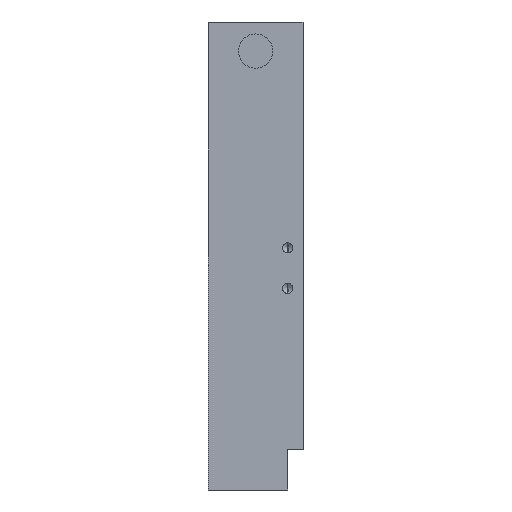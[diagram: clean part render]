
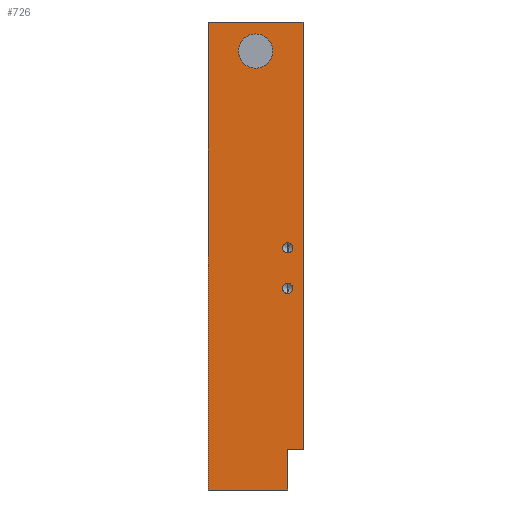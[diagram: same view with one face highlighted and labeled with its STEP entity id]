
A CAD part, left-side view. The second image highlights one B-rep face of the part: STEP entity #726.
In plain terms, the highlighted planar face has unit normal (-1, 0, 0).
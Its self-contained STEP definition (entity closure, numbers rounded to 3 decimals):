
#22 = DIRECTION ( 'NONE',  ( -1., 0., 0. ) ) ;
#74 = DIRECTION ( 'NONE',  ( 0., 0., 1. ) ) ;
#81 = FACE_BOUND ( 'NONE', #3124, .T. ) ;
#102 = CARTESIAN_POINT ( 'NONE',  ( -111.5, 0., 58. ) ) ;
#175 = PLANE ( 'NONE',  #2113 ) ;
#195 = CARTESIAN_POINT ( 'NONE',  ( -111.5, 23.7, 58. ) ) ;
#211 = VERTEX_POINT ( 'NONE', #2895 ) ;
#272 = DIRECTION ( 'NONE',  ( 0., 0., 1. ) ) ;
#274 = EDGE_CURVE ( 'NONE', #211, #973, #2986, .T. ) ;
#325 = CARTESIAN_POINT ( 'NONE',  ( -111.5, 4., 3.25 ) ) ;
#341 = FACE_BOUND ( 'NONE', #3145, .T. ) ;
#361 = AXIS2_PLACEMENT_3D ( 'NONE', #1323, #811, #3089 ) ;
#381 = VERTEX_POINT ( 'NONE', #539 ) ;
#385 = ORIENTED_EDGE ( 'NONE', *, *, #1773, .F. ) ;
#391 = CARTESIAN_POINT ( 'NONE',  ( -111.5, 4., -9.25 ) ) ;
#395 = ORIENTED_EDGE ( 'NONE', *, *, #599, .T. ) ;
#419 = CARTESIAN_POINT ( 'NONE',  ( -111.5, 4., 2. ) ) ;
#421 = ORIENTED_EDGE ( 'NONE', *, *, #1655, .F. ) ;
#536 = ORIENTED_EDGE ( 'NONE', *, *, #2447, .T. ) ;
#539 = CARTESIAN_POINT ( 'NONE',  ( -111.5, 0.2, 58. ) ) ;
#548 = EDGE_CURVE ( 'NONE', #3078, #2747, #605, .T. ) ;
#554 = EDGE_CURVE ( 'NONE', #381, #2758, #2401, .T. ) ;
#573 = CARTESIAN_POINT ( 'NONE',  ( -111.5, 23.7, -58. ) ) ;
#599 = EDGE_CURVE ( 'NONE', #3161, #1112, #1427, .T. ) ;
#605 = CIRCLE ( 'NONE', #361, 4.25 ) ;
#641 = CIRCLE ( 'NONE', #1528, 1.25 ) ;
#658 = CARTESIAN_POINT ( 'NONE',  ( -111.5, 11.95, 46.55 ) ) ;
#673 = ORIENTED_EDGE ( 'NONE', *, *, #2876, .F. ) ;
#713 = DIRECTION ( 'NONE',  ( -1., 0., 0. ) ) ;
#726 = ADVANCED_FACE ( 'NONE', ( #2085, #341, #81, #1686 ), #175, .F. ) ;
#811 = DIRECTION ( 'NONE',  ( -1., 0., 0. ) ) ;
#848 = CARTESIAN_POINT ( 'NONE',  ( -111.5, 23.7, 58. ) ) ;
#854 = ORIENTED_EDGE ( 'NONE', *, *, #274, .F. ) ;
#855 = CARTESIAN_POINT ( 'NONE',  ( -111.5, 4., -8. ) ) ;
#858 = VERTEX_POINT ( 'NONE', #2702 ) ;
#961 = CIRCLE ( 'NONE', #2015, 1.25 ) ;
#973 = VERTEX_POINT ( 'NONE', #325 ) ;
#982 = CARTESIAN_POINT ( 'NONE',  ( -111.5, 4., -6.75 ) ) ;
#997 = VECTOR ( 'NONE', #1483, 1000. ) ;
#1016 = ORIENTED_EDGE ( 'NONE', *, *, #548, .F. ) ;
#1029 = LINE ( 'NONE', #573, #1268 ) ;
#1091 = DIRECTION ( 'NONE',  ( 0., -1., 0. ) ) ;
#1109 = VERTEX_POINT ( 'NONE', #1859 ) ;
#1112 = VERTEX_POINT ( 'NONE', #2353 ) ;
#1166 = DIRECTION ( 'NONE',  ( -1., 0., 0. ) ) ;
#1194 = DIRECTION ( 'NONE',  ( 1., 0., 0. ) ) ;
#1256 = CARTESIAN_POINT ( 'NONE',  ( -111.5, 23.7, 58. ) ) ;
#1268 = VECTOR ( 'NONE', #1310, 1000. ) ;
#1269 = EDGE_CURVE ( 'NONE', #2747, #3078, #1451, .T. ) ;
#1285 = VERTEX_POINT ( 'NONE', #2469 ) ;
#1310 = DIRECTION ( 'NONE',  ( 0., -1., 0. ) ) ;
#1323 = CARTESIAN_POINT ( 'NONE',  ( -111.5, 11.95, 50.8 ) ) ;
#1327 = ORIENTED_EDGE ( 'NONE', *, *, #2709, .F. ) ;
#1426 = AXIS2_PLACEMENT_3D ( 'NONE', #1961, #713, #1477 ) ;
#1427 = LINE ( 'NONE', #2589, #2864 ) ;
#1451 = CIRCLE ( 'NONE', #1426, 4.25 ) ;
#1473 = CARTESIAN_POINT ( 'NONE',  ( -111.5, 4., 2. ) ) ;
#1477 = DIRECTION ( 'NONE',  ( 0., 0., -1. ) ) ;
#1483 = DIRECTION ( 'NONE',  ( 0., -1., 0. ) ) ;
#1484 = ORIENTED_EDGE ( 'NONE', *, *, #2952, .F. ) ;
#1500 = VECTOR ( 'NONE', #2578, 1000. ) ;
#1504 = ORIENTED_EDGE ( 'NONE', *, *, #2507, .F. ) ;
#1528 = AXIS2_PLACEMENT_3D ( 'NONE', #855, #2597, #2110 ) ;
#1594 = AXIS2_PLACEMENT_3D ( 'NONE', #419, #1166, #2431 ) ;
#1608 = EDGE_CURVE ( 'NONE', #1112, #858, #1724, .T. ) ;
#1645 = LINE ( 'NONE', #1898, #2582 ) ;
#1655 = EDGE_CURVE ( 'NONE', #2758, #858, #2858, .T. ) ;
#1686 = FACE_OUTER_BOUND ( 'NONE', #2793, .T. ) ;
#1724 = LINE ( 'NONE', #102, #2282 ) ;
#1759 = CIRCLE ( 'NONE', #2484, 1.25 ) ;
#1773 = EDGE_CURVE ( 'NONE', #3161, #1109, #1645, .T. ) ;
#1820 = DIRECTION ( 'NONE',  ( 0., 0., -1. ) ) ;
#1848 = ORIENTED_EDGE ( 'NONE', *, *, #3064, .F. ) ;
#1857 = VECTOR ( 'NONE', #272, 1000. ) ;
#1859 = CARTESIAN_POINT ( 'NONE',  ( -111.5, 4., -58. ) ) ;
#1860 = VERTEX_POINT ( 'NONE', #391 ) ;
#1898 = CARTESIAN_POINT ( 'NONE',  ( -111.5, 4., -58. ) ) ;
#1915 = DIRECTION ( 'NONE',  ( 0., 0., -1. ) ) ;
#1951 = ORIENTED_EDGE ( 'NONE', *, *, #1608, .T. ) ;
#1958 = DIRECTION ( 'NONE',  ( 0., 0., 1. ) ) ;
#1961 = CARTESIAN_POINT ( 'NONE',  ( -111.5, 11.95, 50.8 ) ) ;
#2015 = AXIS2_PLACEMENT_3D ( 'NONE', #1473, #22, #1958 ) ;
#2016 = CARTESIAN_POINT ( 'NONE',  ( -111.5, 4., -48. ) ) ;
#2059 = CARTESIAN_POINT ( 'NONE',  ( -111.5, 0.2, 42. ) ) ;
#2085 = FACE_BOUND ( 'NONE', #3072, .T. ) ;
#2110 = DIRECTION ( 'NONE',  ( 0., 0., 1. ) ) ;
#2113 = AXIS2_PLACEMENT_3D ( 'NONE', #195, #1194, #1915 ) ;
#2282 = VECTOR ( 'NONE', #74, 1000. ) ;
#2353 = CARTESIAN_POINT ( 'NONE',  ( -111.5, 0., -48. ) ) ;
#2401 = LINE ( 'NONE', #3075, #2549 ) ;
#2416 = LINE ( 'NONE', #1256, #1857 ) ;
#2426 = DIRECTION ( 'NONE',  ( 0., 0., 1. ) ) ;
#2431 = DIRECTION ( 'NONE',  ( 0., 0., 1. ) ) ;
#2447 = EDGE_CURVE ( 'NONE', #1285, #1109, #1029, .T. ) ;
#2469 = CARTESIAN_POINT ( 'NONE',  ( -111.5, 23.7, -58. ) ) ;
#2484 = AXIS2_PLACEMENT_3D ( 'NONE', #2891, #2652, #2426 ) ;
#2507 = EDGE_CURVE ( 'NONE', #2883, #1860, #641, .T. ) ;
#2549 = VECTOR ( 'NONE', #1820, 1000. ) ;
#2578 = DIRECTION ( 'NONE',  ( 0., -1., 0. ) ) ;
#2582 = VECTOR ( 'NONE', #2630, 1000. ) ;
#2589 = CARTESIAN_POINT ( 'NONE',  ( -111.5, 4., -48. ) ) ;
#2597 = DIRECTION ( 'NONE',  ( -1., 0., 0. ) ) ;
#2627 = ORIENTED_EDGE ( 'NONE', *, *, #554, .F. ) ;
#2630 = DIRECTION ( 'NONE',  ( 0., 0., -1. ) ) ;
#2632 = CARTESIAN_POINT ( 'NONE',  ( -111.5, 11.95, 55.05 ) ) ;
#2652 = DIRECTION ( 'NONE',  ( -1., 0., 0. ) ) ;
#2669 = VERTEX_POINT ( 'NONE', #848 ) ;
#2702 = CARTESIAN_POINT ( 'NONE',  ( -111.5, 0., 42. ) ) ;
#2709 = EDGE_CURVE ( 'NONE', #1860, #2883, #1759, .T. ) ;
#2747 = VERTEX_POINT ( 'NONE', #2632 ) ;
#2758 = VERTEX_POINT ( 'NONE', #3179 ) ;
#2793 = EDGE_LOOP ( 'NONE', ( #385, #395, #1951, #421, #2627, #1484, #1848, #536 ) ) ;
#2858 = LINE ( 'NONE', #2059, #1500 ) ;
#2864 = VECTOR ( 'NONE', #1091, 1000. ) ;
#2876 = EDGE_CURVE ( 'NONE', #973, #211, #961, .T. ) ;
#2883 = VERTEX_POINT ( 'NONE', #982 ) ;
#2891 = CARTESIAN_POINT ( 'NONE',  ( -111.5, 4., -8. ) ) ;
#2895 = CARTESIAN_POINT ( 'NONE',  ( -111.5, 4., 0.75 ) ) ;
#2920 = ORIENTED_EDGE ( 'NONE', *, *, #1269, .F. ) ;
#2950 = CARTESIAN_POINT ( 'NONE',  ( -111.5, 23.7, 58. ) ) ;
#2952 = EDGE_CURVE ( 'NONE', #2669, #381, #2979, .T. ) ;
#2979 = LINE ( 'NONE', #2950, #997 ) ;
#2986 = CIRCLE ( 'NONE', #1594, 1.25 ) ;
#3064 = EDGE_CURVE ( 'NONE', #1285, #2669, #2416, .T. ) ;
#3072 = EDGE_LOOP ( 'NONE', ( #673, #854 ) ) ;
#3075 = CARTESIAN_POINT ( 'NONE',  ( -111.5, 0.2, 58. ) ) ;
#3078 = VERTEX_POINT ( 'NONE', #658 ) ;
#3089 = DIRECTION ( 'NONE',  ( 0., 0., -1. ) ) ;
#3124 = EDGE_LOOP ( 'NONE', ( #1016, #2920 ) ) ;
#3145 = EDGE_LOOP ( 'NONE', ( #1504, #1327 ) ) ;
#3161 = VERTEX_POINT ( 'NONE', #2016 ) ;
#3179 = CARTESIAN_POINT ( 'NONE',  ( -111.5, 0.2, 42. ) ) ;
